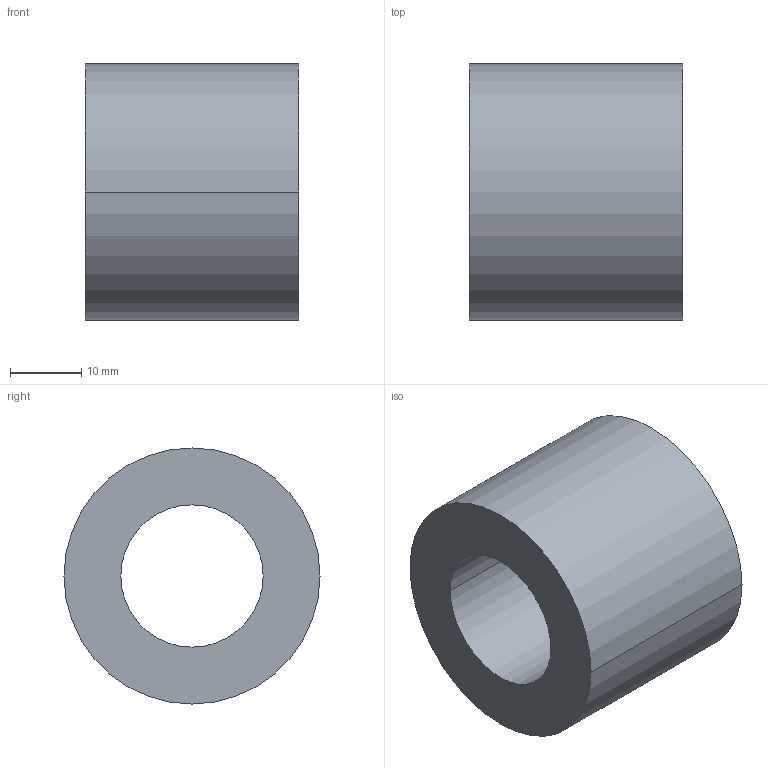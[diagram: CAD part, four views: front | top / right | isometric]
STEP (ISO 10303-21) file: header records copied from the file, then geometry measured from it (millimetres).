
FILE_DESCRIPTION(/* description */ ('(C) Elphel, Inc. 2013. Licensed under CERN OHL v.1.1 or later, see http://ohwr.org/cernohl'),/* implementation_level */ '2;1');
FILE_NAME(/* name */ '0353-40-191.stp',/* time_stamp */ '2013-04-11T17:17:53-06:00',/* author */ (''),/* organization */ ('Elphel, Inc'),/* preprocessor_version */ 'ST-DEVELOPER v14',/* originating_system */ 'VariCAD 2013-1.03; kernel version (20121105)',/* authorisation */ '');
FILE_SCHEMA (('CONFIG_CONTROL_DESIGN'));
Length unit declared in the file: millimetre
Products named in the file (2): 0353-40-191
Assembly tree (1 placements, depth 2):
  0353-40-191
    0353-40-191
Bounding box: 30 x 36 x 36 mm (x, y, z)
Volume: 21111.5 mm3; surface area: 6685.3 mm2
Topology: 1 solids, 1 shells, 6 faces, 12 edges, 8 vertices
Faces by surface type: cylinder 4, plane 2
Entity records: 268 total; most frequent: DIRECTION 40, CARTESIAN_POINT 30, ORIENTED_EDGE 24, AXIS2_PLACEMENT_3D 18, EDGE_CURVE 12, EDGE_LOOP 8, CIRCLE 8, VERTEX_POINT 8
